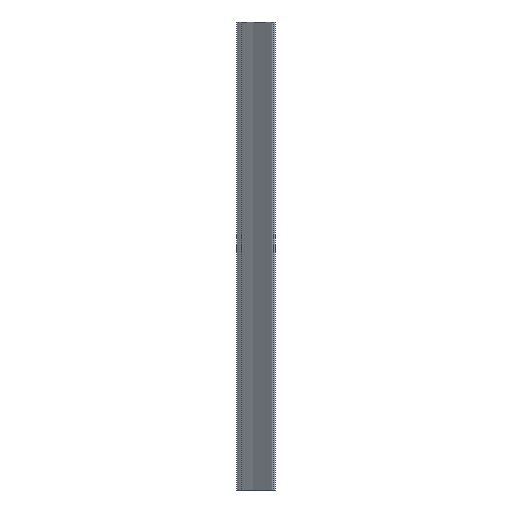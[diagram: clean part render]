
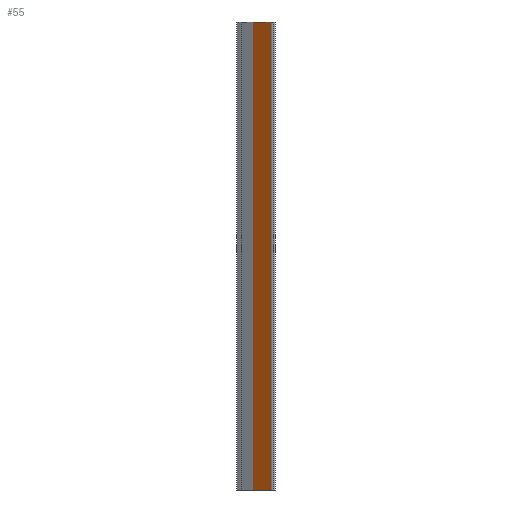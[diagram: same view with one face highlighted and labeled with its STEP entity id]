
A CAD part, left-side view. The second image highlights one B-rep face of the part: STEP entity #55.
In plain terms, the highlighted planar face has unit normal (-0.766, 0.643, 0).
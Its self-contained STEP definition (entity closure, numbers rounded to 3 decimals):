
#4 = VECTOR ( 'NONE', #1028, 1000. ) ;
#18 = FACE_OUTER_BOUND ( 'NONE', #30, .T. ) ;
#26 = LINE ( 'NONE', #337, #437 ) ;
#30 = EDGE_LOOP ( 'NONE', ( #294, #597, #545, #264 ) ) ;
#55 = ADVANCED_FACE ( 'NONE', ( #18 ), #715, .T. ) ;
#185 = DIRECTION ( 'NONE',  ( 0., 0., 1. ) ) ;
#200 = LINE ( 'NONE', #844, #244 ) ;
#205 = VERTEX_POINT ( 'NONE', #598 ) ;
#240 = CARTESIAN_POINT ( 'NONE',  ( 0.468, 2.113, 0. ) ) ;
#244 = VECTOR ( 'NONE', #267, 1000. ) ;
#264 = ORIENTED_EDGE ( 'NONE', *, *, #726, .T. ) ;
#267 = DIRECTION ( 'NONE',  ( -0.643, -0.766, 0. ) ) ;
#292 = EDGE_CURVE ( 'NONE', #205, #836, #308, .T. ) ;
#293 = AXIS2_PLACEMENT_3D ( 'NONE', #546, #655, #890 ) ;
#294 = ORIENTED_EDGE ( 'NONE', *, *, #292, .F. ) ;
#308 = LINE ( 'NONE', #240, #4 ) ;
#337 = CARTESIAN_POINT ( 'NONE',  ( 8.5, 11.686, -250. ) ) ;
#366 = DIRECTION ( 'NONE',  ( 0., 0., 1. ) ) ;
#437 = VECTOR ( 'NONE', #185, 1000. ) ;
#513 = EDGE_CURVE ( 'NONE', #905, #205, #26, .T. ) ;
#545 = ORIENTED_EDGE ( 'NONE', *, *, #737, .T. ) ;
#546 = CARTESIAN_POINT ( 'NONE',  ( 0.468, 2.113, -250. ) ) ;
#597 = ORIENTED_EDGE ( 'NONE', *, *, #513, .F. ) ;
#598 = CARTESIAN_POINT ( 'NONE',  ( 8.5, 11.686, 0. ) ) ;
#611 = VERTEX_POINT ( 'NONE', #896 ) ;
#655 = DIRECTION ( 'NONE',  ( -0.766, 0.643, 0. ) ) ;
#658 = VECTOR ( 'NONE', #366, 1000. ) ;
#685 = CARTESIAN_POINT ( 'NONE',  ( 0.468, 2.113, -250. ) ) ;
#707 = CARTESIAN_POINT ( 'NONE',  ( 0.468, 2.113, 0. ) ) ;
#715 = PLANE ( 'NONE',  #293 ) ;
#719 = CARTESIAN_POINT ( 'NONE',  ( 8.5, 11.686, -250. ) ) ;
#726 = EDGE_CURVE ( 'NONE', #611, #836, #849, .T. ) ;
#737 = EDGE_CURVE ( 'NONE', #905, #611, #200, .T. ) ;
#836 = VERTEX_POINT ( 'NONE', #707 ) ;
#844 = CARTESIAN_POINT ( 'NONE',  ( 0.468, 2.113, -250. ) ) ;
#849 = LINE ( 'NONE', #685, #658 ) ;
#890 = DIRECTION ( 'NONE',  ( -0.643, -0.766, 0. ) ) ;
#896 = CARTESIAN_POINT ( 'NONE',  ( 0.468, 2.113, -250. ) ) ;
#905 = VERTEX_POINT ( 'NONE', #719 ) ;
#1028 = DIRECTION ( 'NONE',  ( -0.643, -0.766, 0. ) ) ;
